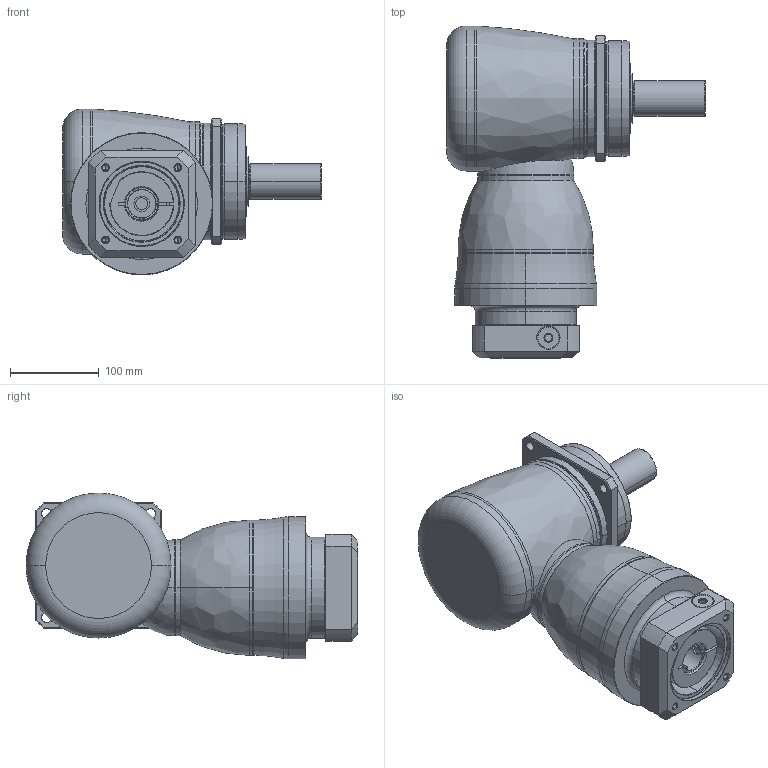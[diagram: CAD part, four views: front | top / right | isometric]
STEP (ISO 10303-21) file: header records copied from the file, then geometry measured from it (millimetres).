
FILE_DESCRIPTION((''),'2;1');
FILE_NAME('KF140_2ST_32-P0409700101_ASM','2016-06-27T',('d01943'),(''),'PRO/ENGINEER BY PARAMETRIC TECHNOLOGY CORPORATION, 2008410','PRO/ENGINEER BY PARAMETRIC TECHNOLOGY CORPORATION, 2008410','');
FILE_SCHEMA(('CONFIG_CONTROL_DESIGN'));
Length unit declared in the file: millimetre
Products named in the file (11): P1008500002; P1804500001; P0915500001; P1315500001; P1007500001; P1317500301; P0409700101; P0503700010; P0912403001; 21711418017; KF140_2ST_32-P0409700101_ASM
Assembly tree (10 placements, depth 2):
  KF140_2ST_32-P0409700101_ASM
    P1008500002
    P1804500001
    P0915500001
    P1315500001
    P1007500001
    P1317500301
    P0409700101
    P0503700010
    P0912403001
    21711418017
Bounding box: 291 x 373 x 186.5 mm (x, y, z)
Volume: 5084504.5 mm3; surface area: 536220.6 mm2
Topology: 11 solids, 11 shells, 442 faces, 978 edges, 577 vertices
Faces by surface type: cylinder 144, cone 116, plane 95, torus 64, bspline 21, sphere 2
Entity records: 17140 total; most frequent: CARTESIAN_POINT 7116, DIRECTION 2227, ORIENTED_EDGE 1920, EDGE_CURVE 960, AXIS2_PLACEMENT_3D 946, VERTEX_POINT 577, EDGE_LOOP 505, CIRCLE 504
